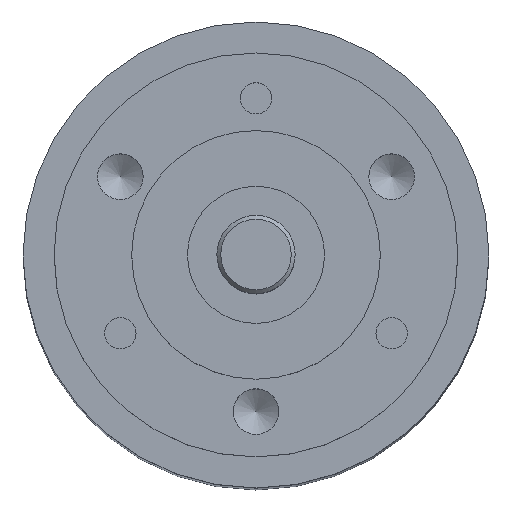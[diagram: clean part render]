
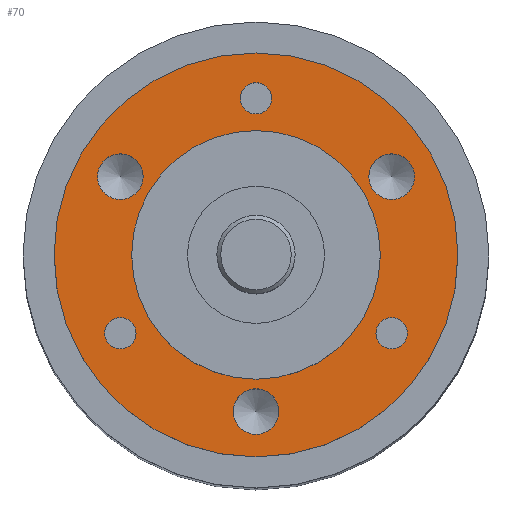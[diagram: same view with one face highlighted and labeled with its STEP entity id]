
A CAD part, top view. The second image highlights one B-rep face of the part: STEP entity #70.
In plain terms, the highlighted planar face has unit normal (0, 0, 1).
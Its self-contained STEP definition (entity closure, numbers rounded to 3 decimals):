
#50=PLANE('',#518);
#70=ADVANCED_FACE('',(#136,#137,#138,#139,#140,#141,#142,#143),#50,.T.);
#136=FACE_BOUND('',#216,.T.);
#137=FACE_BOUND('',#217,.T.);
#138=FACE_BOUND('',#218,.T.);
#139=FACE_BOUND('',#219,.T.);
#140=FACE_BOUND('',#220,.T.);
#141=FACE_BOUND('',#221,.T.);
#142=FACE_BOUND('',#222,.T.);
#143=FACE_BOUND('',#223,.T.);
#216=EDGE_LOOP('',(#298));
#217=EDGE_LOOP('',(#299));
#218=EDGE_LOOP('',(#300));
#219=EDGE_LOOP('',(#301));
#220=EDGE_LOOP('',(#302));
#221=EDGE_LOOP('',(#303));
#222=EDGE_LOOP('',(#304));
#223=EDGE_LOOP('',(#305));
#298=ORIENTED_EDGE('',*,*,#423,.F.);
#299=ORIENTED_EDGE('',*,*,#424,.T.);
#300=ORIENTED_EDGE('',*,*,#425,.T.);
#301=ORIENTED_EDGE('',*,*,#426,.T.);
#302=ORIENTED_EDGE('',*,*,#427,.T.);
#303=ORIENTED_EDGE('',*,*,#428,.T.);
#304=ORIENTED_EDGE('',*,*,#429,.T.);
#305=ORIENTED_EDGE('',*,*,#422,.T.);
#378=VERTEX_POINT('',#770);
#379=VERTEX_POINT('',#773);
#380=VERTEX_POINT('',#775);
#381=VERTEX_POINT('',#777);
#382=VERTEX_POINT('',#779);
#383=VERTEX_POINT('',#781);
#384=VERTEX_POINT('',#783);
#385=VERTEX_POINT('',#785);
#422=EDGE_CURVE('',#378,#378,#463,.T.);
#423=EDGE_CURVE('',#379,#379,#464,.T.);
#424=EDGE_CURVE('',#380,#380,#465,.T.);
#425=EDGE_CURVE('',#381,#381,#466,.T.);
#426=EDGE_CURVE('',#382,#382,#467,.T.);
#427=EDGE_CURVE('',#383,#383,#468,.T.);
#428=EDGE_CURVE('',#384,#384,#469,.T.);
#429=EDGE_CURVE('',#385,#385,#470,.T.);
#463=CIRCLE('',#509,6.35);
#464=CIRCLE('',#511,10.315);
#465=CIRCLE('',#512,1.165);
#466=CIRCLE('',#513,1.165);
#467=CIRCLE('',#514,1.165);
#468=CIRCLE('',#515,0.8);
#469=CIRCLE('',#516,0.8);
#470=CIRCLE('',#517,0.8);
#509=AXIS2_PLACEMENT_3D('',#769,#606,#607);
#511=AXIS2_PLACEMENT_3D('',#772,#610,#611);
#512=AXIS2_PLACEMENT_3D('',#774,#612,#613);
#513=AXIS2_PLACEMENT_3D('',#776,#614,#615);
#514=AXIS2_PLACEMENT_3D('',#778,#616,#617);
#515=AXIS2_PLACEMENT_3D('',#780,#618,#619);
#516=AXIS2_PLACEMENT_3D('',#782,#620,#621);
#517=AXIS2_PLACEMENT_3D('',#784,#622,#623);
#518=AXIS2_PLACEMENT_3D('',#786,#624,#625);
#606=DIRECTION('',(0.,0.,-1.));
#607=DIRECTION('',(1.,0.,0.));
#610=DIRECTION('',(0.,0.,-1.));
#611=DIRECTION('',(-1.,0.,0.));
#612=DIRECTION('',(0.,0.,-1.));
#613=DIRECTION('',(0.5,0.866,0.));
#614=DIRECTION('',(0.,0.,-1.));
#615=DIRECTION('',(0.5,-0.866,0.));
#616=DIRECTION('',(0.,0.,-1.));
#617=DIRECTION('',(-1.,0.,0.));
#618=DIRECTION('',(0.,0.,-1.));
#619=DIRECTION('',(0.5,0.866,0.));
#620=DIRECTION('',(0.,0.,-1.));
#621=DIRECTION('',(0.5,-0.866,0.));
#622=DIRECTION('',(0.,0.,-1.));
#623=DIRECTION('',(-1.,0.,0.));
#624=DIRECTION('',(0.,0.,1.));
#625=DIRECTION('',(1.,0.,0.));
#769=CARTESIAN_POINT('',(0.,0.,0.));
#770=CARTESIAN_POINT('',(6.35,0.,0.));
#772=CARTESIAN_POINT('',(0.,0.,0.));
#773=CARTESIAN_POINT('',(-10.315,0.,0.));
#774=CARTESIAN_POINT('',(6.928,4.,0.));
#775=CARTESIAN_POINT('',(7.51,5.009,0.));
#776=CARTESIAN_POINT('',(0.,-8.,0.));
#777=CARTESIAN_POINT('',(0.582,-9.009,0.));
#778=CARTESIAN_POINT('',(-6.928,4.,0.));
#779=CARTESIAN_POINT('',(-8.093,4.,0.));
#780=CARTESIAN_POINT('',(6.928,-4.,0.));
#781=CARTESIAN_POINT('',(7.328,-3.307,0.));
#782=CARTESIAN_POINT('',(-6.928,-4.,0.));
#783=CARTESIAN_POINT('',(-6.528,-4.693,0.));
#784=CARTESIAN_POINT('',(0.,8.,0.));
#785=CARTESIAN_POINT('',(-0.8,8.,0.));
#786=CARTESIAN_POINT('',(0.,0.,0.));
